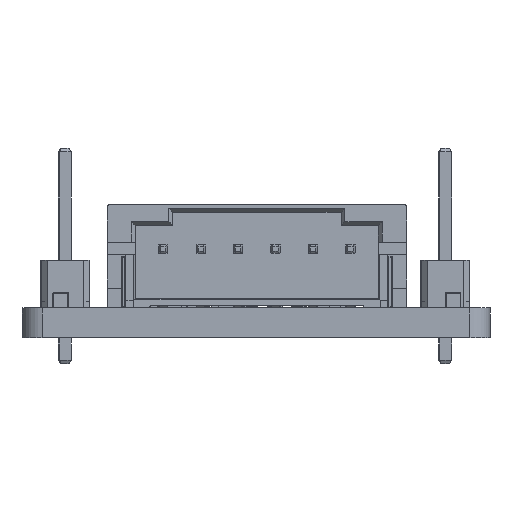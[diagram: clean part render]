
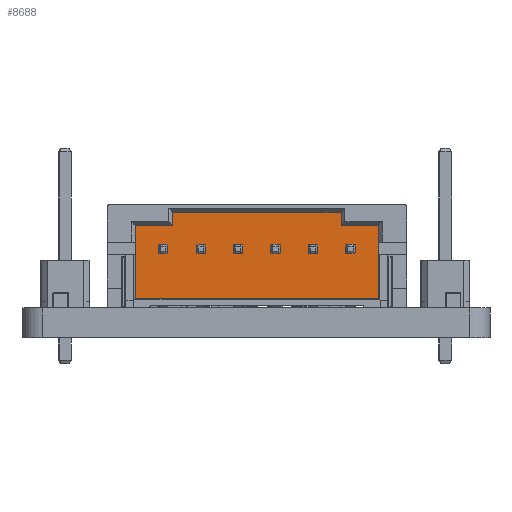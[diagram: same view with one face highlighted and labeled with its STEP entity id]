
A CAD part, left-side view. The second image highlights one B-rep face of the part: STEP entity #8688.
In plain terms, the highlighted planar face has unit normal (-1, 0, 0) as drawn and (0, -1, 0) by its records, which use the part's own axes.
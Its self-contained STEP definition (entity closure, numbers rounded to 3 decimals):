
#7091=PLANE('',#37755);
#8688=ADVANCED_FACE('',(#10468),#7091,.T.);
#10468=FACE_OUTER_BOUND('',#12292,.T.);
#12292=EDGE_LOOP('',(#19362,#19363,#19364,#19365,#19366,#19367,#19368,#19369,
#19370,#19371));
#19362=ORIENTED_EDGE('',*,*,#27973,.T.);
#19363=ORIENTED_EDGE('',*,*,#27972,.F.);
#19364=ORIENTED_EDGE('',*,*,#27876,.F.);
#19365=ORIENTED_EDGE('',*,*,#27974,.T.);
#19366=ORIENTED_EDGE('',*,*,#27933,.F.);
#19367=ORIENTED_EDGE('',*,*,#27975,.T.);
#19368=ORIENTED_EDGE('',*,*,#27976,.T.);
#19369=ORIENTED_EDGE('',*,*,#27977,.F.);
#19370=ORIENTED_EDGE('',*,*,#27978,.T.);
#19371=ORIENTED_EDGE('',*,*,#27979,.F.);
#23944=VERTEX_POINT('',#58712);
#23945=VERTEX_POINT('',#58714);
#23952=VERTEX_POINT('',#58733);
#23990=VERTEX_POINT('',#58815);
#23993=VERTEX_POINT('',#58825);
#23994=VERTEX_POINT('',#58826);
#24023=VERTEX_POINT('',#58903);
#24024=VERTEX_POINT('',#58907);
#24025=VERTEX_POINT('',#58909);
#24026=VERTEX_POINT('',#58911);
#27876=EDGE_CURVE('',#23944,#23945,#31621,.T.);
#27933=EDGE_CURVE('',#23993,#23994,#31677,.T.);
#27972=EDGE_CURVE('',#23945,#23952,#31715,.T.);
#27973=EDGE_CURVE('',#24023,#23952,#31716,.T.);
#27974=EDGE_CURVE('',#23944,#23994,#31717,.T.);
#27975=EDGE_CURVE('',#23993,#23990,#31718,.T.);
#27976=EDGE_CURVE('',#23990,#24024,#31719,.T.);
#27977=EDGE_CURVE('',#24025,#24024,#31720,.T.);
#27978=EDGE_CURVE('',#24025,#24026,#31721,.T.);
#27979=EDGE_CURVE('',#24023,#24026,#31722,.T.);
#31621=LINE('',#58713,#35216);
#31677=LINE('',#58824,#35272);
#31715=LINE('',#58900,#35310);
#31716=LINE('',#58902,#35311);
#31717=LINE('',#58904,#35312);
#31718=LINE('',#58905,#35313);
#31719=LINE('',#58906,#35314);
#31720=LINE('',#58908,#35315);
#31721=LINE('',#58910,#35316);
#31722=LINE('',#58912,#35317);
#35216=VECTOR('',#43382,1.);
#35272=VECTOR('',#43452,1.);
#35310=VECTOR('',#43506,1.);
#35311=VECTOR('',#43509,1.);
#35312=VECTOR('',#43510,1.);
#35313=VECTOR('',#43511,1.);
#35314=VECTOR('',#43512,1.);
#35315=VECTOR('',#43513,1.);
#35316=VECTOR('',#43514,1.);
#35317=VECTOR('',#43515,1.);
#37755=AXIS2_PLACEMENT_3D('',#58913,#43516,#43517);
#43382=DIRECTION('',(0.,0.,1.));
#43452=DIRECTION('',(0.,0.,-1.));
#43506=DIRECTION('',(1.,0.,0.));
#43509=DIRECTION('',(-1.,0.,0.));
#43510=DIRECTION('',(1.,0.,0.));
#43511=DIRECTION('',(-1.,0.,0.));
#43512=DIRECTION('',(-1.,0.,0.));
#43513=DIRECTION('',(0.,0.,-1.));
#43514=DIRECTION('',(-1.,0.,0.));
#43515=DIRECTION('',(0.,0.,1.));
#43516=DIRECTION('',(0.,-1.,0.));
#43517=DIRECTION('',(0.,0.,1.));
#58712=CARTESIAN_POINT('',(-6.5,3.35,0.55));
#58713=CARTESIAN_POINT('',(-6.5,3.35,0.05));
#58714=CARTESIAN_POINT('',(-6.5,3.35,4.45));
#58733=CARTESIAN_POINT('',(-5.5,3.35,4.45));
#58815=CARTESIAN_POINT('',(5.5,3.35,4.45));
#58824=CARTESIAN_POINT('',(6.5,3.35,6.05));
#58825=CARTESIAN_POINT('',(6.5,3.35,4.45));
#58826=CARTESIAN_POINT('',(6.5,3.35,0.55));
#58900=CARTESIAN_POINT('',(-5.4,3.35,4.45));
#58902=CARTESIAN_POINT('',(-7.8,3.35,4.45));
#58903=CARTESIAN_POINT('',(-4.5,3.35,4.45));
#58904=CARTESIAN_POINT('',(-7.8,3.35,0.55));
#58905=CARTESIAN_POINT('',(-7.8,3.35,4.45));
#58906=CARTESIAN_POINT('',(-7.8,3.35,4.45));
#58907=CARTESIAN_POINT('',(4.5,3.35,4.45));
#58908=CARTESIAN_POINT('',(4.5,3.35,5.82));
#58909=CARTESIAN_POINT('',(4.5,3.35,5.15));
#58910=CARTESIAN_POINT('',(-7.8,3.35,5.15));
#58911=CARTESIAN_POINT('',(-4.5,3.35,5.15));
#58912=CARTESIAN_POINT('',(-4.5,3.35,3.78));
#58913=CARTESIAN_POINT('',(-7.8,3.35,5.61));
